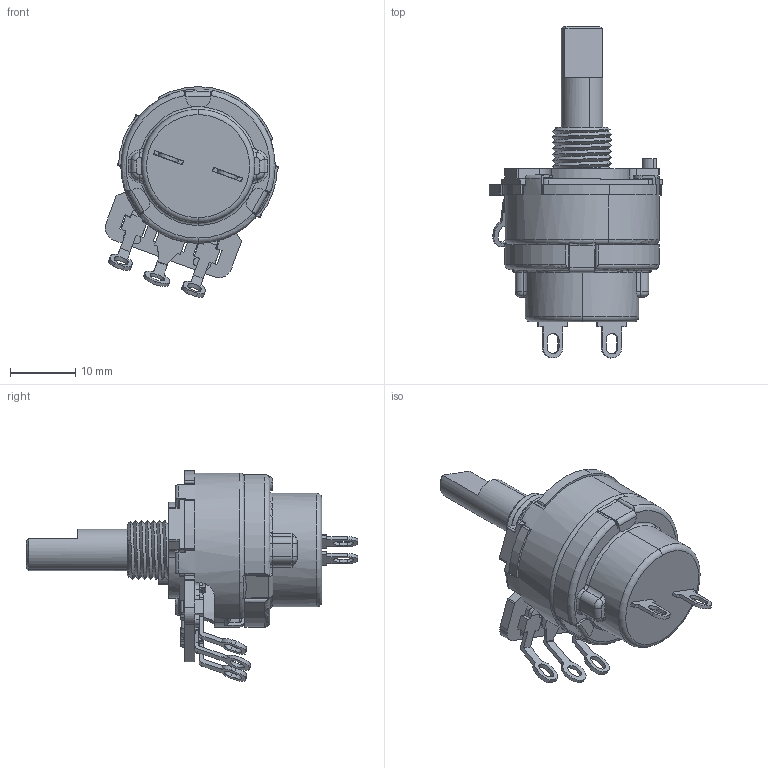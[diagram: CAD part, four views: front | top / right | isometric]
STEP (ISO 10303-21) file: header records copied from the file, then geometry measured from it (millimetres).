
FILE_DESCRIPTION (( 'STEP AP214' ), '1' );
FILE_NAME ('450TMM4F103A1G1.STEP', '2019-05-24T09:08:23', ( '' ), ( '' ), 'SwSTEP 2.0', 'SolidWorks 2019', '' );
FILE_SCHEMA (( 'AUTOMOTIVE_DESIGN' ));
Length unit declared in the file: millimetre
Products named in the file (12): 450-01-T04-30-01G; T450AEDF(For 450-01-T04); 13M-MP45C31; 040-18-003-10-12; 450 element; 5F-T040K-728-0; 040 Switch; Cover45Q_18_040_041Switch Cover; 450D-17 for T450AEDF; Switch_Housing for 040 simple; 450F-23 for T450AEDF; 450TMM4F103A1G1
Assembly tree (13 placements, depth 3):
  450TMM4F103A1G1
    040 Switch
      Switch_Housing for 040 simple
      040-18-003-10-12  x2
      Cover45Q_18_040_041Switch Cover
    T450AEDF(For 450-01-T04)
      450D-17 for T450AEDF
      450 element
      450F-23 for T450AEDF  x2
      450-01-T04-30-01G
    13M-MP45C31
    5F-T040K-728-0
Bounding box: 26.56 x 50.85 x 32.26 mm (x, y, z)
Volume: 4730.7 mm3; surface area: 9040.1 mm2
Topology: 15 solids, 15 shells, 925 faces, 2558 edges, 1666 vertices
Faces by surface type: plane 520, cylinder 306, torus 51, bspline 33, cone 15
Entity records: 29272 total; most frequent: CARTESIAN_POINT 7277, ORIENTED_EDGE 4632, DIRECTION 4414, EDGE_CURVE 2316, AXIS2_PLACEMENT_3D 1525, VERTEX_POINT 1510, LINE 1364, VECTOR 1364
